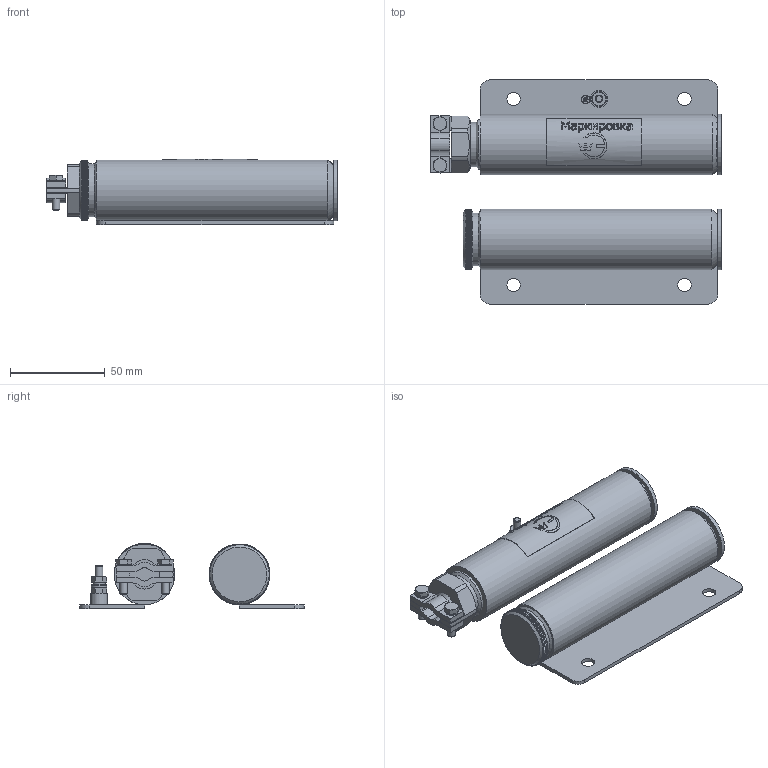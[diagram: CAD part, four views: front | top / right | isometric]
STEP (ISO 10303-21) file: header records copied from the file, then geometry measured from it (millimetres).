
FILE_DESCRIPTION(/* description */ ('','CAx-IF Rec.Pracs.---Representation and Presentation of Product Manufacturing Information (PMI)---3.8---2014-02-18'),/* implementation_level */ '2;1');
FILE_NAME(/* name */ 'C:\Users\suhorukovav\Desktop\ПОЖАРКА ДЛЯ САЙТА\НОВОЕ\ExИо102-1В ЗАО НПК ЭТАЛОН.stp',/* time_stamp */ '2016-12-25T13:21:36+03:00',/* author */ ('suhorukovav'),/* organization */ (''),/* preprocessor_version */ 'ST-DEVELOPER v16.1',/* originating_system */ 'Autodesk Inventor 2016',/* authorisation */ '');
FILE_SCHEMA (('AP242_MANAGED_MODEL_BASED_3D_ENGINEERING_MIM_LF { 1 0 10303 442 1 1 4 }'));
Length unit declared in the file: millimetre
Products named in the file (2): Сборка14_Substitute_1; Сборка14
Assembly tree (1 placements, depth 2):
  Сборка14
    Сборка14_Substitute_1
Bounding box: 153.25 x 118 x 34.3 mm (x, y, z)
Surface area: 69122.2 mm2 (no closed solid volume)
Topology: 0 solids, 30 shells, 917 faces, 2480 edges, 1633 vertices
Faces by surface type: plane 540, cylinder 237, bspline 80, cone 57, torus 3
Full cylindrical faces by diameter (mm): 3.242 x3, 4 x3, 4.271 x1, 4.3 x2, 4.5 x6, 4.562 x1, 7 x4, 8 x2, 9 x1, 12.5 x1, 15.5 x1, 22 x1, 23.5 x1, 24 x1, 25.5 x1, 26 x4, 27.8 x1, 28.1 x1, 30 x1, 32 x4
Entity records: 30135 total; most frequent: CARTESIAN_POINT 8307, ORIENTED_EDGE 4820, DIRECTION 3873, EDGE_CURVE 2410, VERTEX_POINT 1627, AXIS2_PLACEMENT_3D 1467, EDGE_LOOP 1049, LINE 939
